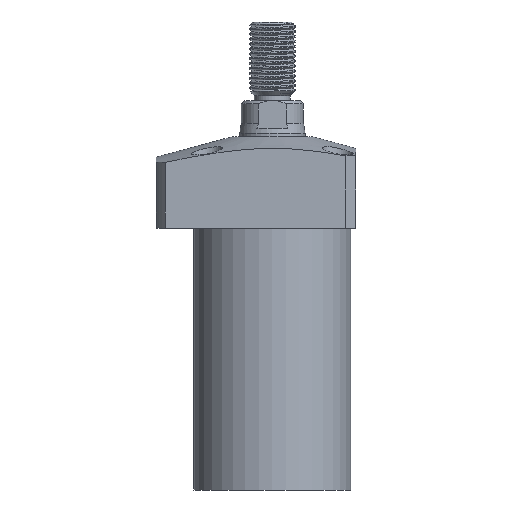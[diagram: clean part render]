
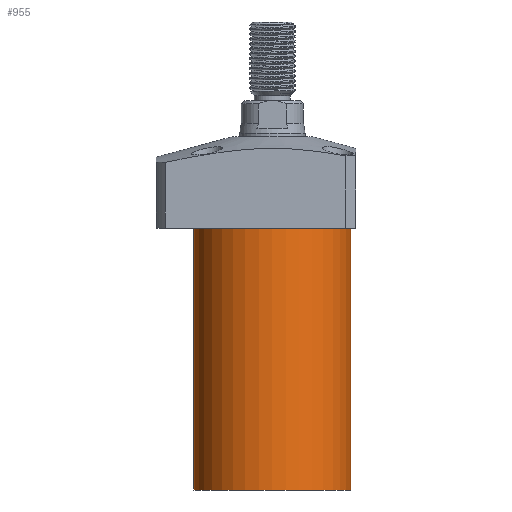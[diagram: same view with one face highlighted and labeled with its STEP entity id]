
A CAD part, front view. The second image highlights one B-rep face of the part: STEP entity #955.
In plain terms, the highlighted cylindrical face has radius 24 mm (diameter 48 mm), a partial arc.
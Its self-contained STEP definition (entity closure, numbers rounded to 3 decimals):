
#222 = FACE_OUTER_BOUND ( 'NONE', #3098, .T. ) ;
#266 = EDGE_CURVE ( 'NONE', #2534, #898, #3735, .T. ) ;
#589 = ORIENTED_EDGE ( 'NONE', *, *, #1601, .F. ) ;
#692 = CIRCLE ( 'NONE', #4834, 24. ) ;
#878 = CARTESIAN_POINT ( 'NONE',  ( 0., 0., -94. ) ) ;
#898 = VERTEX_POINT ( 'NONE', #3704 ) ;
#955 = ADVANCED_FACE ( 'NONE', ( #222 ), #2991, .T. ) ;
#1029 = DIRECTION ( 'NONE',  ( 0., 0., 1. ) ) ;
#1544 = ORIENTED_EDGE ( 'NONE', *, *, #266, .T. ) ;
#1601 = EDGE_CURVE ( 'NONE', #5093, #3617, #1977, .T. ) ;
#1616 = CIRCLE ( 'NONE', #3511, 24. ) ;
#1643 = DIRECTION ( 'NONE',  ( 0., 0., 1. ) ) ;
#1804 = CARTESIAN_POINT ( 'NONE',  ( 24., 0., -94. ) ) ;
#1977 = LINE ( 'NONE', #5008, #2245 ) ;
#2057 = CARTESIAN_POINT ( 'NONE',  ( 0., 0., -94. ) ) ;
#2245 = VECTOR ( 'NONE', #1029, 1000. ) ;
#2534 = VERTEX_POINT ( 'NONE', #1804 ) ;
#2735 = CARTESIAN_POINT ( 'NONE',  ( -24., 0., -14. ) ) ;
#2824 = AXIS2_PLACEMENT_3D ( 'NONE', #878, #1643, #2894 ) ;
#2894 = DIRECTION ( 'NONE',  ( 1., 0., 0. ) ) ;
#2991 = CYLINDRICAL_SURFACE ( 'NONE', #2824, 24. ) ;
#3058 = DIRECTION ( 'NONE',  ( 0., 0., 1. ) ) ;
#3098 = EDGE_LOOP ( 'NONE', ( #589, #4413, #1544, #4242 ) ) ;
#3177 = EDGE_CURVE ( 'NONE', #2534, #5093, #1616, .T. ) ;
#3507 = CARTESIAN_POINT ( 'NONE',  ( 0., 0., -14. ) ) ;
#3511 = AXIS2_PLACEMENT_3D ( 'NONE', #2057, #3996, #4483 ) ;
#3617 = VERTEX_POINT ( 'NONE', #2735 ) ;
#3704 = CARTESIAN_POINT ( 'NONE',  ( 24., 0., -14. ) ) ;
#3735 = LINE ( 'NONE', #4626, #4855 ) ;
#3757 = CARTESIAN_POINT ( 'NONE',  ( -24., 0., -94. ) ) ;
#3996 = DIRECTION ( 'NONE',  ( 0., 0., -1. ) ) ;
#4242 = ORIENTED_EDGE ( 'NONE', *, *, #4820, .T. ) ;
#4359 = DIRECTION ( 'NONE',  ( 0., 0., -1. ) ) ;
#4413 = ORIENTED_EDGE ( 'NONE', *, *, #3177, .F. ) ;
#4483 = DIRECTION ( 'NONE',  ( -1., 0., 0. ) ) ;
#4626 = CARTESIAN_POINT ( 'NONE',  ( 24., 0., -94. ) ) ;
#4793 = DIRECTION ( 'NONE',  ( 1., 0., 0. ) ) ;
#4820 = EDGE_CURVE ( 'NONE', #898, #3617, #692, .T. ) ;
#4834 = AXIS2_PLACEMENT_3D ( 'NONE', #3507, #4359, #4793 ) ;
#4855 = VECTOR ( 'NONE', #3058, 1000. ) ;
#5008 = CARTESIAN_POINT ( 'NONE',  ( -24., 0., -94. ) ) ;
#5093 = VERTEX_POINT ( 'NONE', #3757 ) ;
